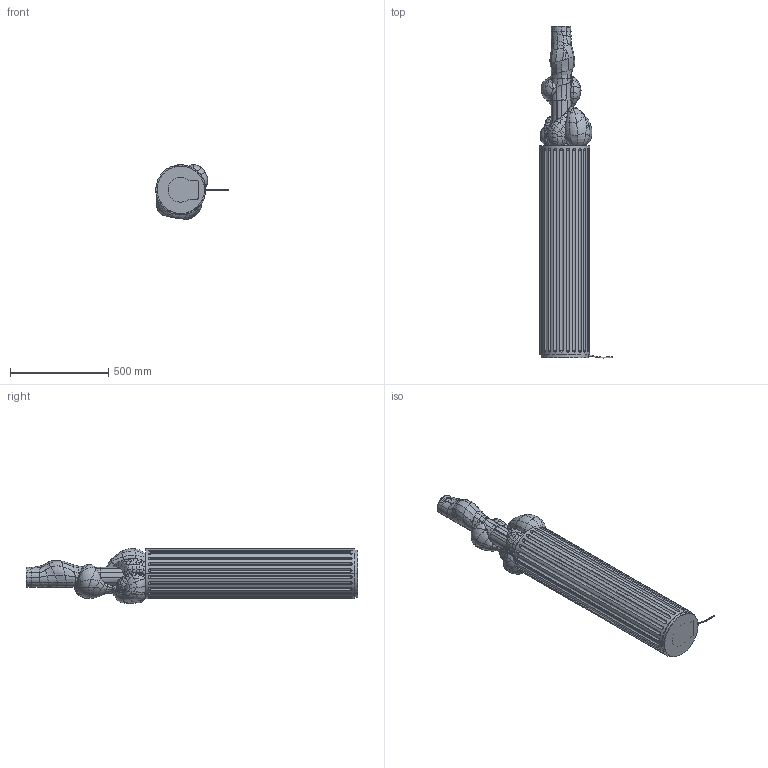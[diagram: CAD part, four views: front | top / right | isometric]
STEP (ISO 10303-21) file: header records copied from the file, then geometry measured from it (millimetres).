
FILE_DESCRIPTION (( 'STEP AP214' ), '1' );
FILE_NAME ('Anna Karlin - Plinth 02.STEP', '2023-11-07T19:09:13', ( '' ), ( '' ), 'SwSTEP 2.0', 'SolidWorks 2023', '' );
FILE_SCHEMA (( 'AUTOMOTIVE_DESIGN' ));
Length unit declared in the file: inch
Products named in the file (19): CM-V5-H - FULL_EGG; Part4^CM-TOP-ASSEM; CM-PLINTH-ASSEM_thin flutes; NU432; Copy of 3mm Felt Foot Pad^CM-PLINTH-ASSEM; Copy of 3mm Felt Glass Wrap^CM-PLINTH-ASSEM; CM-ROD-B^CM-TOP-ASSEM; CM-GLASS-REV2_GLASS; Anna Karlin - Plinth 02; CM-V5-H - FULL_CHOPPED EGG; Part3^CM-TOP-ASSEM; CM-PLINTH-1 - alt; CM-ROD-A^CM-TOP-ASSEM; CM-V5-H - FULL_MAIN; Copy of 3mm Felt Glass Pad^CM-PLINTH-ASSEM; CM-V5-H - FULL_WORM; CM-TOP-ASSEM; Cord - WIBC183POBG^Plinth 02 - Carved Marble; 93813A332_Brass Low-Profile Binding Barrel and Screw
Assembly tree (20 placements, depth 3):
  Anna Karlin - Plinth 02
    CM-TOP-ASSEM
      CM-V5-H - FULL_MAIN
      CM-V5-H - FULL_EGG
      CM-V5-H - FULL_CHOPPED EGG
      CM-V5-H - FULL_WORM
      CM-ROD-A^CM-TOP-ASSEM  x2
      CM-ROD-B^CM-TOP-ASSEM
      Part3^CM-TOP-ASSEM  x2
      Part4^CM-TOP-ASSEM
    CM-PLINTH-ASSEM_thin flutes
      Copy of 3mm Felt Foot Pad^CM-PLINTH-ASSEM
      Copy of 3mm Felt Glass Wrap^CM-PLINTH-ASSEM
      Copy of 3mm Felt Glass Pad^CM-PLINTH-ASSEM
      NU432
      CM-PLINTH-1 - alt
    93813A332_Brass Low-Profile Binding Barrel and Screw
    CM-GLASS-REV2_GLASS
    Cord - WIBC183POBG^Plinth 02 - Carved Marble
Bounding box: 368.66 x 1693.71 x 278.57 mm (x, y, z)
Volume: 23613872.9 mm3; surface area: 3289207.6 mm2
Topology: 22 solids, 22 shells, 1371 faces, 3188 edges, 1844 vertices
Faces by surface type: bspline 813, plane 183, cylinder 174, cone 129, sphere 72
Entity records: 223654 total; most frequent: CARTESIAN_POINT 199560, ORIENTED_EDGE 6136, EDGE_CURVE 3068, DIRECTION 2421, B_SPLINE_CURVE_WITH_KNOTS 2181, VERTEX_POINT 1780, EDGE_LOOP 1420, FACE_OUTER_BOUND 1359
